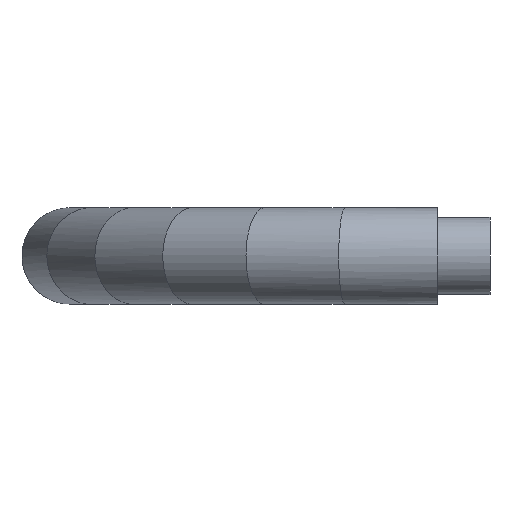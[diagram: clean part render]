
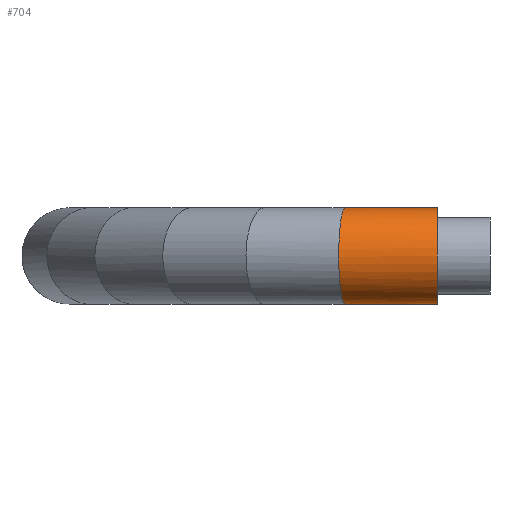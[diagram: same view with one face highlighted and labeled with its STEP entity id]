
A CAD part, left-side view. The second image highlights one B-rep face of the part: STEP entity #704.
In plain terms, the highlighted cylindrical face has radius 100.2 mm (diameter 200.4 mm), a partial arc.
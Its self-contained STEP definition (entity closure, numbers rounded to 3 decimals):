
#72 = ORIENTED_EDGE ( 'NONE', *, *, #1037, .T. ) ;
#145 = ORIENTED_EDGE ( 'NONE', *, *, #537, .F. ) ;
#254 = CARTESIAN_POINT ( 'NONE',  ( 0., 205., -100.2 ) ) ;
#256 = FACE_OUTER_BOUND ( 'NONE', #728, .T. ) ;
#300 = ORIENTED_EDGE ( 'NONE', *, *, #1542, .F. ) ;
#371 = AXIS2_PLACEMENT_3D ( 'NONE', #1232, #518, #626 ) ;
#412 = CARTESIAN_POINT ( 'NONE',  ( 0., 191.808, -100.2 ) ) ;
#451 = CARTESIAN_POINT ( 'NONE',  ( 0., 205., 100.2 ) ) ;
#518 = DIRECTION ( 'NONE',  ( 0., -1., 0. ) ) ;
#537 = EDGE_CURVE ( 'NONE', #1259, #745, #829, .T. ) ;
#538 = VERTEX_POINT ( 'NONE', #1029 ) ;
#556 = ORIENTED_EDGE ( 'NONE', *, *, #1035, .T. ) ;
#609 = DIRECTION ( 'NONE',  ( 0., 0., 1. ) ) ;
#614 = VERTEX_POINT ( 'NONE', #649 ) ;
#626 = DIRECTION ( 'NONE',  ( 0., 0., -1. ) ) ;
#642 = DIRECTION ( 'NONE',  ( 0., 1., 0. ) ) ;
#649 = CARTESIAN_POINT ( 'NONE',  ( 0., 0., 100.2 ) ) ;
#704 = ADVANCED_FACE ( 'NONE', ( #256 ), #752, .T. ) ;
#722 = DIRECTION ( 'NONE',  ( 0., -1., 0. ) ) ;
#728 = EDGE_LOOP ( 'NONE', ( #300, #145, #556, #72 ) ) ;
#741 = CARTESIAN_POINT ( 'NONE',  ( 0., 0., 0. ) ) ;
#745 = VERTEX_POINT ( 'NONE', #1521 ) ;
#752 = CYLINDRICAL_SURFACE ( 'NONE', #371, 100.2 ) ;
#789 = CARTESIAN_POINT ( 'NONE',  ( -200.4, 218.192, 100.2 ) ) ;
#829 =( BOUNDED_CURVE ( )  B_SPLINE_CURVE ( 3, ( #412, #1502, #789, #1398 ),
 .UNSPECIFIED., .F., .T. ) 
 B_SPLINE_CURVE_WITH_KNOTS ( ( 4, 4 ),
 ( 4.712, 7.854 ),
 .UNSPECIFIED. ) 
 CURVE ( )  GEOMETRIC_REPRESENTATION_ITEM ( )  RATIONAL_B_SPLINE_CURVE ( ( 1., 0.333, 0.333, 1. ) ) 
 REPRESENTATION_ITEM ( '' )  );
#960 = CIRCLE ( 'NONE', #1498, 100.2 ) ;
#1029 = CARTESIAN_POINT ( 'NONE',  ( 0., 0., -100.2 ) ) ;
#1035 = EDGE_CURVE ( 'NONE', #1259, #538, #1372, .T. ) ;
#1037 = EDGE_CURVE ( 'NONE', #538, #614, #960, .T. ) ;
#1076 = LINE ( 'NONE', #451, #1348 ) ;
#1116 = VECTOR ( 'NONE', #1247, 1000. ) ;
#1179 = CARTESIAN_POINT ( 'NONE',  ( 0., 191.808, -100.2 ) ) ;
#1232 = CARTESIAN_POINT ( 'NONE',  ( 0., 205., 0. ) ) ;
#1247 = DIRECTION ( 'NONE',  ( 0., -1., 0. ) ) ;
#1259 = VERTEX_POINT ( 'NONE', #1179 ) ;
#1348 = VECTOR ( 'NONE', #722, 1000. ) ;
#1372 = LINE ( 'NONE', #254, #1116 ) ;
#1398 = CARTESIAN_POINT ( 'NONE',  ( 0., 191.808, 100.2 ) ) ;
#1498 = AXIS2_PLACEMENT_3D ( 'NONE', #741, #642, #609 ) ;
#1502 = CARTESIAN_POINT ( 'NONE',  ( -200.4, 218.192, -100.2 ) ) ;
#1521 = CARTESIAN_POINT ( 'NONE',  ( 0., 191.808, 100.2 ) ) ;
#1542 = EDGE_CURVE ( 'NONE', #745, #614, #1076, .T. ) ;
